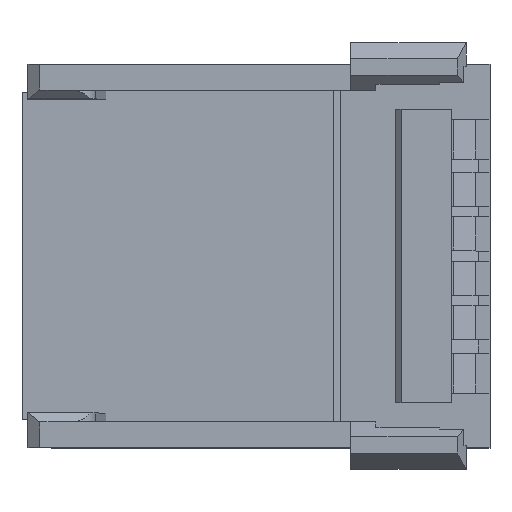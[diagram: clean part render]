
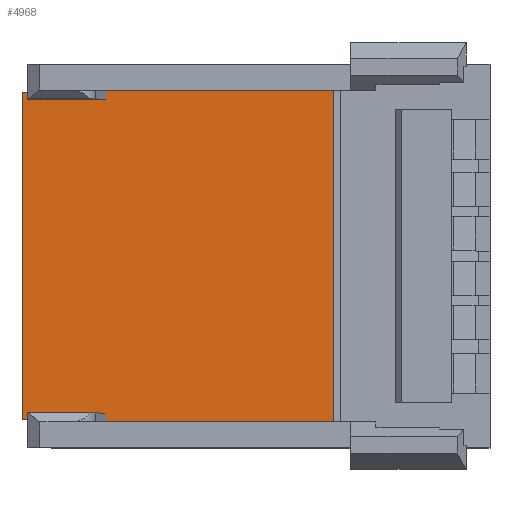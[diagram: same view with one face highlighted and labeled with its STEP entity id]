
A CAD part, top view. The second image highlights one B-rep face of the part: STEP entity #4968.
In plain terms, the highlighted planar face has unit normal (0, 0, 1).
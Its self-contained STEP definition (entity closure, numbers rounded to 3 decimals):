
#4938=AXIS2_PLACEMENT_3D('Plane Axis2P3D',#4935,#4936,#4937) ;
#176=CARTESIAN_POINT('Vertex',(0.,-5.525,0.)) ;
#181=CARTESIAN_POINT('Line Origine',(0.,0.,0.)) ;
#185=CARTESIAN_POINT('Vertex',(0.,5.525,0.)) ;
#1196=CARTESIAN_POINT('Vertex',(2.826,-5.6,0.)) ;
#1199=CARTESIAN_POINT('Line Origine',(2.826,-5.45,0.)) ;
#1203=CARTESIAN_POINT('Vertex',(2.826,-5.3,0.)) ;
#1223=CARTESIAN_POINT('Line Origine',(2.163,-5.3,0.)) ;
#1227=CARTESIAN_POINT('Vertex',(1.5,-5.3,0.)) ;
#1416=CARTESIAN_POINT('Vertex',(0.2,-5.3,0.)) ;
#1419=CARTESIAN_POINT('Line Origine',(0.2,-5.413,0.)) ;
#1423=CARTESIAN_POINT('Vertex',(0.2,-5.525,0.)) ;
#1473=CARTESIAN_POINT('Line Origine',(0.1,-5.525,0.)) ;
#2093=CARTESIAN_POINT('Vertex',(1.5,5.3,0.)) ;
#4042=CARTESIAN_POINT('Line Origine',(0.1,5.525,0.)) ;
#4046=CARTESIAN_POINT('Vertex',(0.2,5.525,0.)) ;
#4127=CARTESIAN_POINT('Line Origine',(0.85,-5.3,0.)) ;
#4156=CARTESIAN_POINT('Line Origine',(2.163,5.3,0.)) ;
#4160=CARTESIAN_POINT('Vertex',(2.826,5.3,0.)) ;
#4209=CARTESIAN_POINT('Vertex',(0.2,5.3,0.)) ;
#4212=CARTESIAN_POINT('Line Origine',(0.85,5.3,0.)) ;
#4465=CARTESIAN_POINT('Vertex',(10.5,-5.6,0.)) ;
#4468=CARTESIAN_POINT('Line Origine',(6.663,-5.6,0.)) ;
#4731=CARTESIAN_POINT('Line Origine',(0.2,5.413,0.)) ;
#4916=CARTESIAN_POINT('Line Origine',(2.826,5.45,0.)) ;
#4920=CARTESIAN_POINT('Vertex',(2.826,5.6,0.)) ;
#4935=CARTESIAN_POINT('Axis2P3D Location',(10.75,-5.525,0.)) ;
#4940=CARTESIAN_POINT('Line Origine',(10.5,0.,0.)) ;
#4944=CARTESIAN_POINT('Vertex',(10.5,5.6,0.)) ;
#4947=CARTESIAN_POINT('Line Origine',(6.663,5.6,0.)) ;
#182=DIRECTION('Vector Direction',(0.,-1.,0.)) ;
#1200=DIRECTION('Vector Direction',(0.,1.,0.)) ;
#1224=DIRECTION('Vector Direction',(-1.,0.,0.)) ;
#1420=DIRECTION('Vector Direction',(0.,-1.,0.)) ;
#1474=DIRECTION('Vector Direction',(-1.,0.,0.)) ;
#4043=DIRECTION('Vector Direction',(-1.,0.,0.)) ;
#4128=DIRECTION('Vector Direction',(1.,0.,0.)) ;
#4157=DIRECTION('Vector Direction',(-1.,0.,0.)) ;
#4213=DIRECTION('Vector Direction',(1.,0.,0.)) ;
#4469=DIRECTION('Vector Direction',(1.,0.,0.)) ;
#4732=DIRECTION('Vector Direction',(0.,-1.,0.)) ;
#4917=DIRECTION('Vector Direction',(0.,1.,0.)) ;
#4936=DIRECTION('Axis2P3D Direction',(0.,0.,1.)) ;
#4937=DIRECTION('Axis2P3D XDirection',(-1.,0.,0.)) ;
#4941=DIRECTION('Vector Direction',(0.,1.,0.)) ;
#4948=DIRECTION('Vector Direction',(1.,0.,0.)) ;
#183=VECTOR('Line Direction',#182,1.) ;
#1201=VECTOR('Line Direction',#1200,1.) ;
#1225=VECTOR('Line Direction',#1224,1.) ;
#1421=VECTOR('Line Direction',#1420,1.) ;
#1475=VECTOR('Line Direction',#1474,1.) ;
#4044=VECTOR('Line Direction',#4043,1.) ;
#4129=VECTOR('Line Direction',#4128,1.) ;
#4158=VECTOR('Line Direction',#4157,1.) ;
#4214=VECTOR('Line Direction',#4213,1.) ;
#4470=VECTOR('Line Direction',#4469,1.) ;
#4733=VECTOR('Line Direction',#4732,1.) ;
#4918=VECTOR('Line Direction',#4917,1.) ;
#4942=VECTOR('Line Direction',#4941,1.) ;
#4949=VECTOR('Line Direction',#4948,1.) ;
#4953=ORIENTED_EDGE('',*,*,#187,.F.) ;
#4954=ORIENTED_EDGE('',*,*,#1477,.F.) ;
#4955=ORIENTED_EDGE('',*,*,#1425,.T.) ;
#4956=ORIENTED_EDGE('',*,*,#4131,.T.) ;
#4957=ORIENTED_EDGE('',*,*,#1229,.T.) ;
#4958=ORIENTED_EDGE('',*,*,#1205,.F.) ;
#4959=ORIENTED_EDGE('',*,*,#4472,.T.) ;
#4960=ORIENTED_EDGE('',*,*,#4946,.F.) ;
#4961=ORIENTED_EDGE('',*,*,#4951,.F.) ;
#4962=ORIENTED_EDGE('',*,*,#4922,.T.) ;
#4963=ORIENTED_EDGE('',*,*,#4162,.F.) ;
#4964=ORIENTED_EDGE('',*,*,#4216,.F.) ;
#4965=ORIENTED_EDGE('',*,*,#4735,.F.) ;
#4966=ORIENTED_EDGE('',*,*,#4048,.T.) ;
#4968=ADVANCED_FACE('Lower_Body',(#4967),#4939,.T.) ;
#187=EDGE_CURVE('',#177,#186,#184,.F.) ;
#1205=EDGE_CURVE('',#1197,#1204,#1202,.T.) ;
#1229=EDGE_CURVE('',#1228,#1204,#1226,.F.) ;
#1425=EDGE_CURVE('',#1424,#1417,#1422,.F.) ;
#1477=EDGE_CURVE('',#1424,#177,#1476,.T.) ;
#4048=EDGE_CURVE('',#4047,#186,#4045,.T.) ;
#4131=EDGE_CURVE('',#1417,#1228,#4130,.T.) ;
#4162=EDGE_CURVE('',#2094,#4161,#4159,.F.) ;
#4216=EDGE_CURVE('',#4210,#2094,#4215,.T.) ;
#4472=EDGE_CURVE('',#1197,#4466,#4471,.T.) ;
#4735=EDGE_CURVE('',#4047,#4210,#4734,.T.) ;
#4922=EDGE_CURVE('',#4921,#4161,#4919,.F.) ;
#4946=EDGE_CURVE('',#4945,#4466,#4943,.F.) ;
#4951=EDGE_CURVE('',#4921,#4945,#4950,.T.) ;
#4952=EDGE_LOOP('',(#4953,#4954,#4955,#4956,#4957,#4958,#4959,#4960,#4961,#4962,#4963,#4964,#4965,#4966)) ;
#4967=FACE_OUTER_BOUND('',#4952,.T.) ;
#184=LINE('Line',#181,#183) ;
#1202=LINE('Line',#1199,#1201) ;
#1226=LINE('Line',#1223,#1225) ;
#1422=LINE('Line',#1419,#1421) ;
#1476=LINE('Line',#1473,#1475) ;
#4045=LINE('Line',#4042,#4044) ;
#4130=LINE('Line',#4127,#4129) ;
#4159=LINE('Line',#4156,#4158) ;
#4215=LINE('Line',#4212,#4214) ;
#4471=LINE('Line',#4468,#4470) ;
#4734=LINE('Line',#4731,#4733) ;
#4919=LINE('Line',#4916,#4918) ;
#4943=LINE('Line',#4940,#4942) ;
#4950=LINE('Line',#4947,#4949) ;
#4939=PLANE('',#4938) ;
#177=VERTEX_POINT('',#176) ;
#186=VERTEX_POINT('',#185) ;
#1197=VERTEX_POINT('',#1196) ;
#1204=VERTEX_POINT('',#1203) ;
#1228=VERTEX_POINT('',#1227) ;
#1417=VERTEX_POINT('',#1416) ;
#1424=VERTEX_POINT('',#1423) ;
#2094=VERTEX_POINT('',#2093) ;
#4047=VERTEX_POINT('',#4046) ;
#4161=VERTEX_POINT('',#4160) ;
#4210=VERTEX_POINT('',#4209) ;
#4466=VERTEX_POINT('',#4465) ;
#4921=VERTEX_POINT('',#4920) ;
#4945=VERTEX_POINT('',#4944) ;
